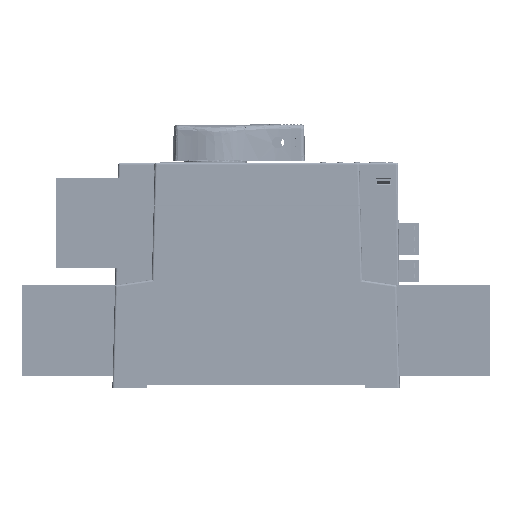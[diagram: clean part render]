
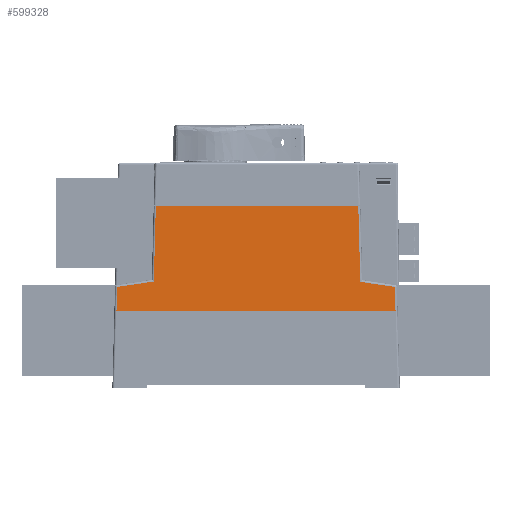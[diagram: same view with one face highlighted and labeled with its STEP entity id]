
A CAD part, left-side view. The second image highlights one B-rep face of the part: STEP entity #599328.
In plain terms, the highlighted planar face has unit normal (-1, 0, 0.018).
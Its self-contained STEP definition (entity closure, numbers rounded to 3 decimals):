
#5705 = CARTESIAN_POINT ( 'NONE',  ( -189.186, 62.778, 46.652 ) ) ;
#23459 = CARTESIAN_POINT ( 'NONE',  ( -189.147, 48.022, 48.858 ) ) ;
#71199 = EDGE_CURVE ( 'NONE', #293442, #297797, #680481, .T. ) ;
#89836 = ORIENTED_EDGE ( 'NONE', *, *, #71199, .F. ) ;
#114346 = DIRECTION ( 'NONE',  ( 0., 1., 0. ) ) ;
#121130 = ORIENTED_EDGE ( 'NONE', *, *, #987454, .T. ) ;
#136090 = VERTEX_POINT ( 'NONE', #962908 ) ;
#138180 = CARTESIAN_POINT ( 'NONE',  ( -188.525, 89.402, 84.5 ) ) ;
#147862 = CARTESIAN_POINT ( 'NONE',  ( -189.192, 65.288, 46.277 ) ) ;
#156635 = CARTESIAN_POINT ( 'NONE',  ( -188.15, -65., 106.003 ) ) ;
#197840 = LINE ( 'NONE', #1043883, #342741 ) ;
#240199 = DIRECTION ( 'NONE',  ( 1., 0., -0.017 ) ) ;
#245657 = DIRECTION ( 'NONE',  ( -0.017, 0., -1. ) ) ;
#258011 = LINE ( 'NONE', #769901, #1065458 ) ;
#264544 = ORIENTED_EDGE ( 'NONE', *, *, #870039, .F. ) ;
#288770 = VECTOR ( 'NONE', #1025593, 1000. ) ;
#293442 = VERTEX_POINT ( 'NONE', #356754 ) ;
#297797 = VERTEX_POINT ( 'NONE', #744536 ) ;
#334123 = DIRECTION ( 'NONE',  ( 0.003, -0.989, 0.148 ) ) ;
#342741 = VECTOR ( 'NONE', #114346, 1000. ) ;
#356754 = CARTESIAN_POINT ( 'NONE',  ( -189.147, 48.022, 48.858 ) ) ;
#364942 = CARTESIAN_POINT ( 'NONE',  ( -189.15, -49.022, 48.708 ) ) ;
#365360 = VERTEX_POINT ( 'NONE', #1028450 ) ;
#407107 = EDGE_CURVE ( 'NONE', #651642, #365360, #961401, .T. ) ;
#412646 = PLANE ( 'NONE',  #821695 ) ;
#423718 = CARTESIAN_POINT ( 'NONE',  ( -189.15, -49.022, 48.708 ) ) ;
#444373 = VECTOR ( 'NONE', #787963, 1000. ) ;
#447756 = EDGE_CURVE ( 'NONE', #651642, #293442, #862632, .T. ) ;
#473928 = CARTESIAN_POINT ( 'NONE',  ( -188.525, -48.085, 84.5 ) ) ;
#490918 = VECTOR ( 'NONE', #563035, 1000. ) ;
#500736 = CARTESIAN_POINT ( 'NONE',  ( -188.525, -48.085, 84.5 ) ) ;
#508825 = EDGE_CURVE ( 'NONE', #805131, #860692, #980594, .T. ) ;
#530210 = VECTOR ( 'NONE', #888842, 1000. ) ;
#549339 = CARTESIAN_POINT ( 'NONE',  ( -188.091, 63.636, 109.371 ) ) ;
#553247 = VECTOR ( 'NONE', #1089837, 1000. ) ;
#563035 = DIRECTION ( 'NONE',  ( -0.017, -0.026, -1. ) ) ;
#563093 = EDGE_CURVE ( 'NONE', #860692, #680838, #1049568, .T. ) ;
#599328 = ADVANCED_FACE ( 'NONE', ( #824637 ), #412646, .F. ) ;
#637353 = ORIENTED_EDGE ( 'NONE', *, *, #407107, .T. ) ;
#650730 = CARTESIAN_POINT ( 'NONE',  ( -189.192, -65.288, 46.277 ) ) ;
#651642 = VERTEX_POINT ( 'NONE', #147862 ) ;
#680481 = LINE ( 'NONE', #23459, #288770 ) ;
#680838 = VERTEX_POINT ( 'NONE', #650730 ) ;
#680967 = DIRECTION ( 'NONE',  ( 0.017, 0.026, 1. ) ) ;
#714295 = ORIENTED_EDGE ( 'NONE', *, *, #743303, .F. ) ;
#714616 = VECTOR ( 'NONE', #334123, 1000. ) ;
#741474 = ORIENTED_EDGE ( 'NONE', *, *, #447756, .F. ) ;
#741864 = EDGE_LOOP ( 'NONE', ( #741474, #637353, #714295, #121130, #758266, #742925, #264544, #89836 ) ) ;
#742925 = ORIENTED_EDGE ( 'NONE', *, *, #508825, .F. ) ;
#743303 = EDGE_CURVE ( 'NONE', #136090, #365360, #197840, .T. ) ;
#744536 = CARTESIAN_POINT ( 'NONE',  ( -188.525, 47.089, 84.5 ) ) ;
#758266 = ORIENTED_EDGE ( 'NONE', *, *, #563093, .F. ) ;
#769901 = CARTESIAN_POINT ( 'NONE',  ( -188.15, -63.725, 105.97 ) ) ;
#787963 = DIRECTION ( 'NONE',  ( -0.003, -0.989, -0.148 ) ) ;
#805131 = VERTEX_POINT ( 'NONE', #500736 ) ;
#821695 = AXIS2_PLACEMENT_3D ( 'NONE', #156635, #240199, #245657 ) ;
#824637 = FACE_OUTER_BOUND ( 'NONE', #741864, .T. ) ;
#860692 = VERTEX_POINT ( 'NONE', #423718 ) ;
#862632 = LINE ( 'NONE', #5705, #714616 ) ;
#870039 = EDGE_CURVE ( 'NONE', #297797, #805131, #917159, .T. ) ;
#888842 = DIRECTION ( 'NONE',  ( -0.017, 0.026, -1. ) ) ;
#917159 = LINE ( 'NONE', #138180, #553247 ) ;
#961401 = LINE ( 'NONE', #549339, #530210 ) ;
#962908 = CARTESIAN_POINT ( 'NONE',  ( -189.389, -65.584, 35. ) ) ;
#980594 = LINE ( 'NONE', #473928, #490918 ) ;
#987454 = EDGE_CURVE ( 'NONE', #136090, #680838, #258011, .T. ) ;
#1025593 = DIRECTION ( 'NONE',  ( 0.017, -0.026, 1. ) ) ;
#1028450 = CARTESIAN_POINT ( 'NONE',  ( -189.389, 65.584, 35. ) ) ;
#1043883 = CARTESIAN_POINT ( 'NONE',  ( -189.389, -65., 35. ) ) ;
#1049568 = LINE ( 'NONE', #364942, #444373 ) ;
#1065458 = VECTOR ( 'NONE', #680967, 1000. ) ;
#1089837 = DIRECTION ( 'NONE',  ( 0., -1., 0. ) ) ;
